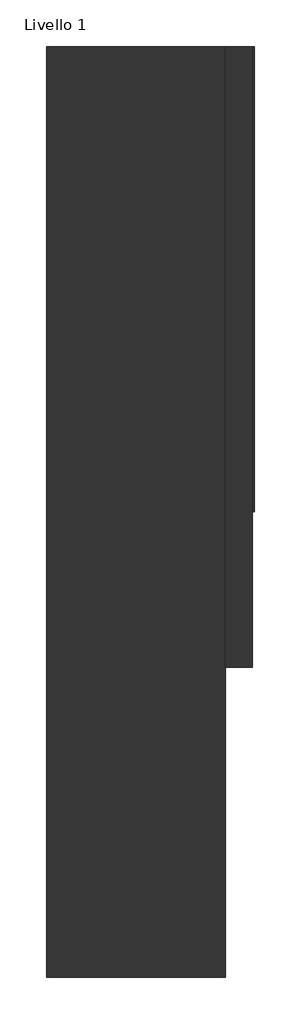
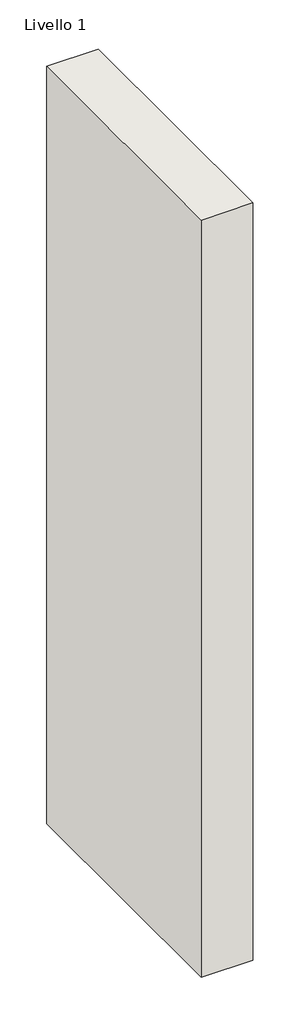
# One storey: 1 wall.
"""IFC4 building model written with IfcOpenShell, lengths in millimetres."""

import ifcopenshell
import ifcopenshell.guid

model = None  # the IFC model being written
_history = None  # IfcOwnerHistory: only IFC2X3 demands one
_inside = {}  # id of a spatial element -> (the spatial element, [elements in it])
_under = {}  # id of a project, library or spatial element -> (it, [spatial elements below it])
_declared = {}  # id of a project -> (the project, [libraries it declares])
_typed = {}  # id of a type object -> (the type object, [elements of that type])
_made_of = {}  # id of a material, layer set ... -> (it, [elements and type objects made of it])


def new_model(schema):
    """Start an empty IFC model of exactly this schema.

    Asked for "IFC4X3", IfcOpenShell would pick the latest addendum, in which some entities
    have other attributes; the version numbers below select the first issue.
    IFC2X3 requires an IfcOwnerHistory on every rooted entity: one is made here for all.
    """
    global model, _history
    if schema == "IFC4X3":
        model = ifcopenshell.file(schema_version=(4, 3, 0, 0))
    else:
        model = ifcopenshell.file(schema=schema)
    _inside.clear()
    _under.clear()
    _declared.clear()
    _typed.clear()
    _made_of.clear()
    _history = None
    if model.schema == "IFC2X3":
        org = make("IfcOrganization", Name="unknown")
        user = make(
            "IfcPersonAndOrganization",
            ThePerson=make("IfcPerson", FamilyName="unknown"),
            TheOrganization=org,
        )
        app = make(
            "IfcApplication",
            ApplicationDeveloper=org,
            Version="unknown",
            ApplicationFullName="unknown",
            ApplicationIdentifier="unknown",
        )
        _history = make(
            "IfcOwnerHistory",
            OwningUser=user,
            OwningApplication=app,
            ChangeAction="ADDED",
            CreationDate=0,
        )
    return model


def make(cls, **values):
    """One entity of the class cls with the attributes given. An attribute that is None is left unset."""
    return model.create_entity(
        cls, **{name: value for name, value in values.items() if value is not None}
    )


def rooted(cls, **values):
    """An entity with a GlobalId (a new one), such as an element, a storey or a relation."""
    return make(cls, GlobalId=ifcopenshell.guid.new(), OwnerHistory=_history, **values)


def si_unit(unit_type, name, prefix=None):
    """IfcSIUnit, for example si_unit("LENGTHUNIT", "METRE", prefix="MILLI")."""
    return make("IfcSIUnit", UnitType=unit_type, Prefix=prefix, Name=name)


def assignment(units):
    """IfcUnitAssignment: the units of a project."""
    return None if units is None else make("IfcUnitAssignment", Units=units)


def point(xyz):
    """IfcCartesianPoint."""
    return None if xyz is None else make("IfcCartesianPoint", Coordinates=xyz)


def direction(xyz):
    """IfcDirection."""
    return None if xyz is None else make("IfcDirection", DirectionRatios=xyz)


def frame(location, z_axis=None, x_axis=None):
    """IfcAxis2Placement3D, a coordinate frame: its origin and axes. An axis left out is left unset."""
    return make(
        "IfcAxis2Placement3D",
        Location=point(location),
        Axis=direction(z_axis),
        RefDirection=direction(x_axis),
    )


def origin():
    """The frame at (0, 0, 0) with its axes left unset."""
    return frame((0.0, 0.0, 0.0))


def origin_with_axes():
    """The frame at (0, 0, 0) with the z axis (0, 0, 1) and the x axis (1, 0, 0) written out."""
    return frame((0.0, 0.0, 0.0), z_axis=(0.0, 0.0, 1.0), x_axis=(1.0, 0.0, 0.0))


def place(relative_to, where):
    """IfcLocalPlacement: puts the frame where relative to a parent placement (None: the world)."""
    return make(
        "IfcLocalPlacement", PlacementRelTo=relative_to, RelativePlacement=where
    )


def context(
    kind, dimensions, precision=None, world=None, true_north=None, identifier=None
):
    """IfcGeometricRepresentationContext, for example the 3D "Model" context."""
    return make(
        "IfcGeometricRepresentationContext",
        ContextIdentifier=identifier,
        ContextType=kind,
        CoordinateSpaceDimension=dimensions,
        Precision=precision,
        WorldCoordinateSystem=world,
        TrueNorth=true_north,
    )


def project(units=None, contexts=None):
    """IfcProject with its units and contexts."""
    return rooted(
        "IfcProject",
        Name="project",
        RepresentationContexts=contexts,
        UnitsInContext=assignment(units),
    )


def spatial(cls, under=None, at=None, **own):
    """A site, building, storey or space (cls), placed at a placement, below another one or the project."""
    s = rooted(cls, ObjectPlacement=at, **own)
    if under is not None:
        _under.setdefault(under.id(), (under, []))[1].append(s)
    return s


def polyline(points):
    """IfcPolyline through the points."""
    return make("IfcPolyline", Points=[point(p) for p in points])


def outline(outer, holes=None, kind="AREA"):
    """IfcArbitraryClosedProfileDef: a profile drawn as a closed curve; with holes, ...WithVoids."""
    if holes is None:
        return make("IfcArbitraryClosedProfileDef", ProfileType=kind, OuterCurve=outer)
    return make(
        "IfcArbitraryProfileDefWithVoids",
        ProfileType=kind,
        OuterCurve=outer,
        InnerCurves=holes,
    )


def extrude(swept, where, along, depth):
    """IfcExtrudedAreaSolid: the profile swept, set in the frame where, extruded along a direction by depth."""
    return make(
        "IfcExtrudedAreaSolid",
        SweptArea=swept,
        Position=where,
        ExtrudedDirection=direction(along),
        Depth=depth,
    )


def shape(context_of_items, identifier, shape_type, items):
    """IfcShapeRepresentation: the items that make up one representation, for example the "Body"."""
    return make(
        "IfcShapeRepresentation",
        ContextOfItems=context_of_items,
        RepresentationIdentifier=identifier,
        RepresentationType=shape_type,
        Items=items,
    )


def made_of(thing, what):
    """Note that an element or type object is made of a material, layer set ...; save() writes the relation."""
    if what is not None:
        _made_of.setdefault(what.id(), (what, []))[1].append(thing)
    return thing


def element(
    cls,
    number,
    at=None,
    inside=None,
    cuts=None,
    type_object=None,
    material=None,
    context=None,
    identifier="Body",
    shape_type=None,
    held_by="IfcProductDefinitionShape",
    body=None,
    shapes=None,
    **own,
):
    """One element of the class cls, such as IfcWall. Its Tag is "e" and its number.

    at: its placement. inside: the storey or other place that contains it. cuts: it is an
    opening in that element (IfcRelVoidsElement). A single representation is given by context,
    identifier, shape_type and body (its items); several are given by shapes. held_by: the class
    of the entity that holds the representations. save() writes the other relations.
    """
    e = rooted(cls, Tag="e%d" % number, ObjectPlacement=at, **own)
    if body is not None:
        shapes = [shape(context, identifier, shape_type, body)]
    if shapes is not None:
        e.Representation = make(held_by, Representations=shapes)
    if inside is not None:
        _inside.setdefault(inside.id(), (inside, []))[1].append(e)
    if cuts is not None:
        rooted(
            "IfcRelVoidsElement", RelatingBuildingElement=cuts, RelatedOpeningElement=e
        )
    if type_object is not None:
        _typed.setdefault(type_object.id(), (type_object, []))[1].append(e)
    return made_of(e, material)


def aggregate(whole, parts):
    """IfcRelAggregates: a whole, such as a stair, and the parts it consists of."""
    return rooted("IfcRelAggregates", RelatingObject=whole, RelatedObjects=parts)


def save(model, path):
    """Write the relations noted so far, then the file.

    IfcRelAggregates (storeys below a building ...), IfcRelContainedInSpatialStructure (elements
    in a storey), IfcRelDefinesByType, IfcRelAssociatesMaterial and IfcRelDeclares: one each for
    every whole, place, type object, material and project.
    """
    for whole, parts in _under.values():
        aggregate(whole, parts)
    for where, things in _inside.values():
        rooted(
            "IfcRelContainedInSpatialStructure",
            RelatedElements=things,
            RelatingStructure=where,
        )
    for kind, things in _typed.values():
        rooted("IfcRelDefinesByType", RelatedObjects=things, RelatingType=kind)
    for what, things in _made_of.values():
        rooted("IfcRelAssociatesMaterial", RelatedObjects=things, RelatingMaterial=what)
    for by, libraries in _declared.values():
        rooted("IfcRelDeclares", RelatingContext=by, RelatedDefinitions=libraries)
    model.write(path)


model = new_model("IFC4")

# Units and contexts
model_context = context("Model", 3, world=origin())
ifc_project = project(units=[si_unit("LENGTHUNIT", "METRE", prefix="MILLI")], contexts=[model_context])

# Site, building, storey
site = spatial("IfcSite", under=ifc_project)
building = spatial("IfcBuilding", under=site)
storey = spatial("IfcBuildingStorey", under=building, Name="Livello 1", Elevation=0.0)

# Wall
placement = place(None, origin())
element("IfcWall", 1, ObjectType="MAPEI - Reabilitação de alvenarias antigas sujeitas a fenomenos de humidade ascendente (sistema desumidificante de base cimentícia)", at=placement, inside=storey, context=model_context, shape_type="SweptSolid", body=[
    extrude(outline(polyline([(471.8463918, 512.0136299), (441.8463918, 512.0136299), (441.8463918, 1203.6082474), (471.8463918, 1203.6082474), (471.8463918, 512.0136299)])), origin_with_axes(), (0.0, 0.0, 1.0), 2500.0),
    extrude(outline(polyline([(473.7463918, 1203.6082474), (473.7463918, 684.9122843), (471.8463918, 684.9122843), (471.8463918, 1203.6082474), (473.7463918, 1203.6082474)])), origin_with_axes(), (0.0, 0.0, 1.0), 2200.0),
    extrude(outline(polyline([(241.8463918, 166.2163212), (241.8463918, 1203.6082474), (441.8463918, 1203.6082474), (441.8463918, 166.2163212), (241.8463918, 166.2163212)])), origin_with_axes(), (0.0, 0.0, 1.0), 3100.0),
])

save(model, "model.ifc")
